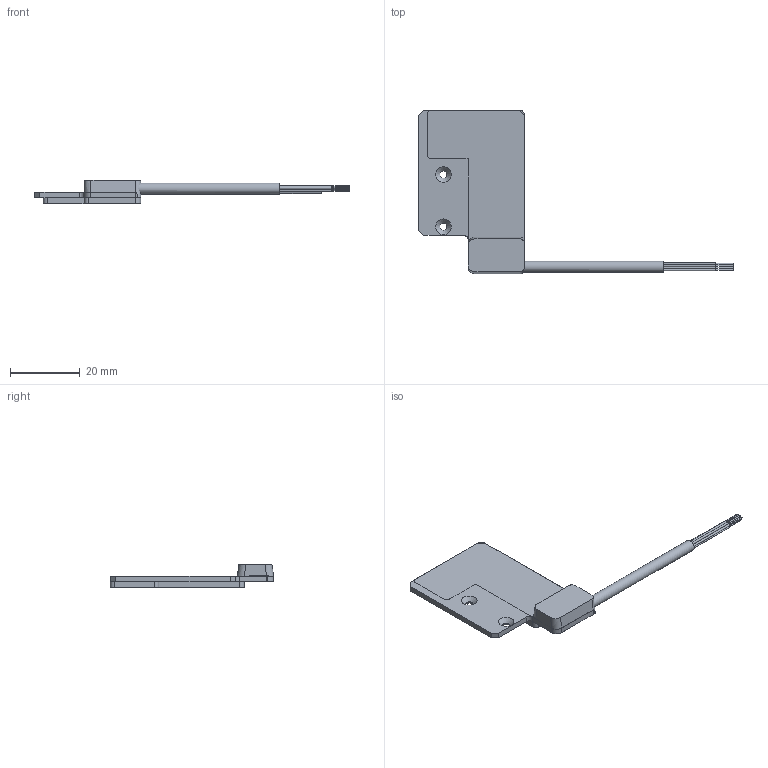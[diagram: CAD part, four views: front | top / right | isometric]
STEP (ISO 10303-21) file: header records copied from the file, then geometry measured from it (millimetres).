
FILE_DESCRIPTION( ( 'Unknown' ), '1' );
FILE_NAME( 'G:/_archief/Cad/_cadsoli/Produkten/Sensors/DigHall Ironless/Iron Less_UL__Digital HALL module_CAD_140124.stp', 'Unknown', ( 'Unknown' ), ( 'Unknown' ), 'PSStep 14.0', 'Unknown', ' ' );
FILE_SCHEMA( ( 'AUTOMOTIVE_DESIGN { 1 0 10303 214 1 1 1 1 }' ) );
Length unit declared in the file: millimetre
Products named in the file (6): 4022 368 10572-oa0; 4022 363 60752; draadje2; Kabel; Assem1; Giethars DigHall
Assembly tree (8 placements, depth 3):
  Assem1
    Giethars DigHall
    4022 368 10572-oa0
      4022 363 60752
      draadje2  x4
      Kabel
Bounding box: 90.5 x 47.01 x 6.9 mm (x, y, z)
Volume: 5913.2 mm3; surface area: 6163 mm2
Topology: 7 solids, 7 shells, 167 faces, 369 edges, 248 vertices
Faces by surface type: plane 103, cylinder 54, torus 8, cone 2
Full cylindrical faces by diameter (mm): 0.3 x18, 0.555 x8, 0.6 x8, 0.886 x1, 1.2 x5, 2.1 x2, 3.2 x1
Entity records: 3682 total; most frequent: DIRECTION 649, CARTESIAN_POINT 595, ORIENTED_EDGE 512, EDGE_CURVE 256, AXIS2_PLACEMENT_3D 246, EDGE_LOOP 216, VERTEX_POINT 192, FACE_OUTER_BOUND 171
